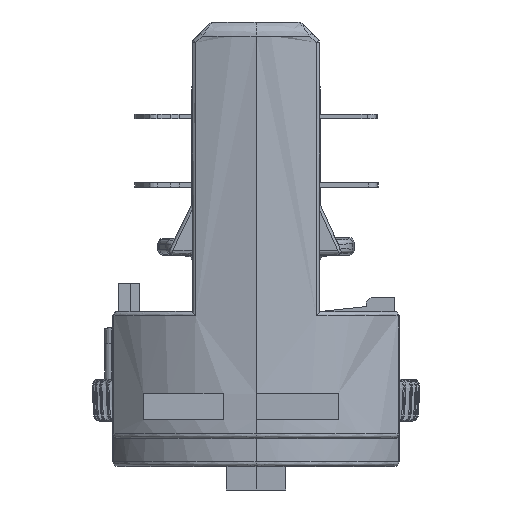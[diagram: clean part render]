
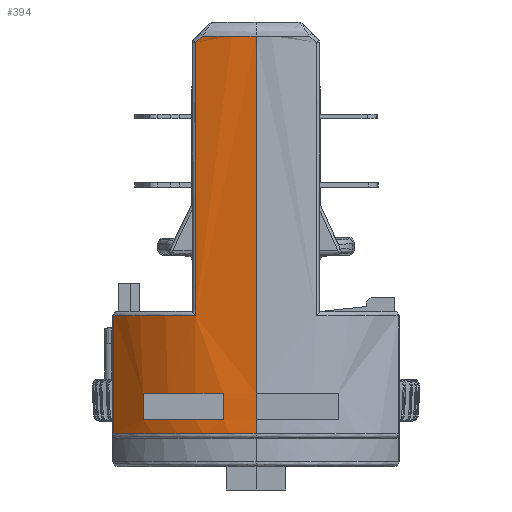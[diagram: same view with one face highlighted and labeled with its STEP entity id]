
A CAD part, left-side view. The second image highlights one B-rep face of the part: STEP entity #394.
In plain terms, the highlighted free-form (B-spline) face has degree [2, 1] with [9, 2] control points.
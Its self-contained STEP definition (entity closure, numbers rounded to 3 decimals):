
#23=FACE_BOUND('',#3270,.T.);
#394=ADVANCED_FACE('',(#1829,#23),#21890,.T.);
#1829=FACE_OUTER_BOUND('',#3269,.T.);
#3269=EDGE_LOOP('',(#6072,#6073,#6074,#6075,#6076,#6077,#6078,#6079,#6080));
#3270=EDGE_LOOP('',(#6081,#6082,#6083,#6084));
#6072=ORIENTED_EDGE('',*,*,#12556,.T.);
#6073=ORIENTED_EDGE('',*,*,#12514,.F.);
#6074=ORIENTED_EDGE('',*,*,#12510,.F.);
#6075=ORIENTED_EDGE('',*,*,#12068,.F.);
#6076=ORIENTED_EDGE('',*,*,#12557,.T.);
#6077=ORIENTED_EDGE('',*,*,#12064,.F.);
#6078=ORIENTED_EDGE('',*,*,#12558,.T.);
#6079=ORIENTED_EDGE('',*,*,#12443,.F.);
#6080=ORIENTED_EDGE('',*,*,#12552,.F.);
#6081=ORIENTED_EDGE('',*,*,#12562,.T.);
#6082=ORIENTED_EDGE('',*,*,#12559,.T.);
#6083=ORIENTED_EDGE('',*,*,#12560,.T.);
#6084=ORIENTED_EDGE('',*,*,#12561,.T.);
#12064=EDGE_CURVE('',#19251,#19252,#15460,.T.);
#12068=EDGE_CURVE('',#19255,#19256,#15464,.T.);
#12443=EDGE_CURVE('',#19482,#19483,#16563,.T.);
#12510=EDGE_CURVE('',#19256,#19523,#15609,.T.);
#12514=EDGE_CURVE('',#19523,#19524,#15613,.T.);
#12552=EDGE_CURVE('',#19552,#19482,#15644,.T.);
#12556=EDGE_CURVE('',#19552,#19524,#15646,.T.);
#12557=EDGE_CURVE('',#19255,#19252,#15647,.T.);
#12558=EDGE_CURVE('',#19251,#19483,#15648,.T.);
#12559=EDGE_CURVE('',#19554,#19555,#15649,.T.);
#12560=EDGE_CURVE('',#19555,#19556,#15650,.T.);
#12561=EDGE_CURVE('',#19556,#19557,#15651,.T.);
#12562=EDGE_CURVE('',#19557,#19554,#15652,.T.);
#15460=(
BOUNDED_CURVE()
B_SPLINE_CURVE(1,(#32832,#32833),.UNSPECIFIED.,.F.,.F.)
B_SPLINE_CURVE_WITH_KNOTS((2,2),(0.,38.2),.UNSPECIFIED.)
CURVE()
GEOMETRIC_REPRESENTATION_ITEM()
RATIONAL_B_SPLINE_CURVE((1.,1.))
REPRESENTATION_ITEM('')
);
#15464=(
BOUNDED_CURVE()
B_SPLINE_CURVE(1,(#32842,#32843),.UNSPECIFIED.,.F.,.F.)
B_SPLINE_CURVE_WITH_KNOTS((2,2),(0.,1.5),.UNSPECIFIED.)
CURVE()
GEOMETRIC_REPRESENTATION_ITEM()
RATIONAL_B_SPLINE_CURVE((1.,1.))
REPRESENTATION_ITEM('')
);
#15609=(
BOUNDED_CURVE()
B_SPLINE_CURVE(2,(#34026,#34027,#34028),.UNSPECIFIED.,.F.,.F.)
B_SPLINE_CURVE_WITH_KNOTS((3,3),(53.261,70.591),
 .UNSPECIFIED.)
CURVE()
GEOMETRIC_REPRESENTATION_ITEM()
RATIONAL_B_SPLINE_CURVE((1.,0.911,1.))
REPRESENTATION_ITEM('')
);
#15613=(
BOUNDED_CURVE()
B_SPLINE_CURVE(1,(#34037,#34038),.UNSPECIFIED.,.F.,.F.)
B_SPLINE_CURVE_WITH_KNOTS((2,2),(0.,12.6),.UNSPECIFIED.)
CURVE()
GEOMETRIC_REPRESENTATION_ITEM()
RATIONAL_B_SPLINE_CURVE((1.,1.))
REPRESENTATION_ITEM('')
);
#15644=(
BOUNDED_CURVE()
B_SPLINE_CURVE(1,(#34142,#34143),.UNSPECIFIED.,.F.,.F.)
B_SPLINE_CURVE_WITH_KNOTS((2,2),(0.,29.193),.UNSPECIFIED.)
CURVE()
GEOMETRIC_REPRESENTATION_ITEM()
RATIONAL_B_SPLINE_CURVE((1.,1.))
REPRESENTATION_ITEM('')
);
#15646=(
BOUNDED_CURVE()
B_SPLINE_CURVE(2,(#34155,#34156,#34157),.UNSPECIFIED.,.F.,.F.)
B_SPLINE_CURVE_WITH_KNOTS((3,3),(0.,10.837),.UNSPECIFIED.)
CURVE()
GEOMETRIC_REPRESENTATION_ITEM()
RATIONAL_B_SPLINE_CURVE((1.,0.966,1.))
REPRESENTATION_ITEM('')
);
#15647=(
BOUNDED_CURVE()
B_SPLINE_CURVE(1,(#34158,#34159),.UNSPECIFIED.,.F.,.F.)
B_SPLINE_CURVE_WITH_KNOTS((2,2),(0.,2.8),.UNSPECIFIED.)
CURVE()
GEOMETRIC_REPRESENTATION_ITEM()
RATIONAL_B_SPLINE_CURVE((1.,1.))
REPRESENTATION_ITEM('')
);
#15648=(
BOUNDED_CURVE()
B_SPLINE_CURVE(2,(#34160,#34161,#34162),.UNSPECIFIED.,.F.,.F.)
B_SPLINE_CURVE_WITH_KNOTS((3,3),(0.,5.855),.UNSPECIFIED.)
CURVE()
GEOMETRIC_REPRESENTATION_ITEM()
RATIONAL_B_SPLINE_CURVE((1.,0.99,1.))
REPRESENTATION_ITEM('')
);
#15649=(
BOUNDED_CURVE()
B_SPLINE_CURVE(2,(#34163,#34164,#34165),.UNSPECIFIED.,.F.,.F.)
B_SPLINE_CURVE_WITH_KNOTS((3,3),(0.,9.595),.UNSPECIFIED.)
CURVE()
GEOMETRIC_REPRESENTATION_ITEM()
RATIONAL_B_SPLINE_CURVE((1.,0.973,1.))
REPRESENTATION_ITEM('')
);
#15650=(
BOUNDED_CURVE()
B_SPLINE_CURVE(1,(#34166,#34167),.UNSPECIFIED.,.F.,.F.)
B_SPLINE_CURVE_WITH_KNOTS((2,2),(0.,2.8),.UNSPECIFIED.)
CURVE()
GEOMETRIC_REPRESENTATION_ITEM()
RATIONAL_B_SPLINE_CURVE((1.,1.))
REPRESENTATION_ITEM('')
);
#15651=(
BOUNDED_CURVE()
B_SPLINE_CURVE(2,(#34168,#34169,#34170),.UNSPECIFIED.,.F.,.F.)
B_SPLINE_CURVE_WITH_KNOTS((3,3),(0.,9.595),.UNSPECIFIED.)
CURVE()
GEOMETRIC_REPRESENTATION_ITEM()
RATIONAL_B_SPLINE_CURVE((1.,0.973,1.))
REPRESENTATION_ITEM('')
);
#15652=(
BOUNDED_CURVE()
B_SPLINE_CURVE(1,(#34171,#34172),.UNSPECIFIED.,.F.,.F.)
B_SPLINE_CURVE_WITH_KNOTS((2,2),(0.,2.8),.UNSPECIFIED.)
CURVE()
GEOMETRIC_REPRESENTATION_ITEM()
RATIONAL_B_SPLINE_CURVE((1.,1.))
REPRESENTATION_ITEM('')
);
#16563=B_SPLINE_CURVE_WITH_KNOTS('',3,(#33846,#33847,#33848,#33849),
 .UNSPECIFIED.,.F.,.F.,(4,4),(0.,1.038),.UNSPECIFIED.);
#19251=VERTEX_POINT('',#30976);
#19252=VERTEX_POINT('',#30977);
#19255=VERTEX_POINT('',#30980);
#19256=VERTEX_POINT('',#30981);
#19482=VERTEX_POINT('',#31207);
#19483=VERTEX_POINT('',#31208);
#19523=VERTEX_POINT('',#31248);
#19524=VERTEX_POINT('',#31249);
#19552=VERTEX_POINT('',#31277);
#19554=VERTEX_POINT('',#31279);
#19555=VERTEX_POINT('',#31280);
#19556=VERTEX_POINT('',#31281);
#19557=VERTEX_POINT('',#31282);
#21890=(
BOUNDED_SURFACE()
B_SPLINE_SURFACE(2,1,((#29915,#29916),(#29917,#29918),(#29919,#29920),(#29921,
#29922),(#29923,#29924),(#29925,#29926),(#29927,#29928),(#29929,#29930),
(#29931,#29932)),.UNSPECIFIED.,.T.,.F.,.F.)
B_SPLINE_SURFACE_WITH_KNOTS((3,2,2,2,3),(2,2),(0.,31.763,63.525,
95.288,127.05),(0.,51.535),.UNSPECIFIED.)
GEOMETRIC_REPRESENTATION_ITEM()
RATIONAL_B_SPLINE_SURFACE(((1.,1.),(0.707,0.707),
(1.,1.),(0.707,0.707),(1.,1.),(0.707,
0.707),(1.,1.),(0.707,0.707),(1.,1.)))
REPRESENTATION_ITEM('')
SURFACE()
);
#29915=CARTESIAN_POINT('',(40.441,15.294,3.018));
#29916=CARTESIAN_POINT('',(40.441,15.294,-48.518));
#29917=CARTESIAN_POINT('',(40.441,-4.926,3.018));
#29918=CARTESIAN_POINT('',(40.441,-4.926,-48.518));
#29919=CARTESIAN_POINT('',(20.221,-4.926,3.018));
#29920=CARTESIAN_POINT('',(20.221,-4.926,-48.518));
#29921=CARTESIAN_POINT('',(0.,-4.926,3.018));
#29922=CARTESIAN_POINT('',(0.,-4.926,-48.518));
#29923=CARTESIAN_POINT('',(0.,15.294,3.018));
#29924=CARTESIAN_POINT('',(0.,15.294,-48.518));
#29925=CARTESIAN_POINT('',(0.,35.515,3.018));
#29926=CARTESIAN_POINT('',(0.,35.515,-48.518));
#29927=CARTESIAN_POINT('',(20.221,35.515,3.018));
#29928=CARTESIAN_POINT('',(20.221,35.515,-48.518));
#29929=CARTESIAN_POINT('',(40.441,35.515,3.018));
#29930=CARTESIAN_POINT('',(40.441,35.515,-48.518));
#29931=CARTESIAN_POINT('',(40.441,15.294,3.018));
#29932=CARTESIAN_POINT('',(40.441,15.294,-48.518));
#30976=CARTESIAN_POINT('',(0.,15.294,-1.5));
#30977=CARTESIAN_POINT('',(0.,15.294,-39.7));
#30980=CARTESIAN_POINT('',(0.,15.294,-42.5));
#30981=CARTESIAN_POINT('',(0.,15.294,-44.));
#31207=CARTESIAN_POINT('',(1.06,21.754,-2.207));
#31208=CARTESIAN_POINT('',(0.83,21.029,-1.5));
#31248=CARTESIAN_POINT('',(6.857,30.47,-44.));
#31249=CARTESIAN_POINT('',(6.857,30.47,-31.4));
#31277=CARTESIAN_POINT('',(1.06,21.754,-31.4));
#31279=CARTESIAN_POINT('',(4.,27.368,-39.7));
#31280=CARTESIAN_POINT('',(0.305,18.794,-39.7));
#31281=CARTESIAN_POINT('',(0.305,18.794,-42.5));
#31282=CARTESIAN_POINT('',(4.,27.368,-42.5));
#32832=CARTESIAN_POINT('',(0.,15.294,-1.5));
#32833=CARTESIAN_POINT('',(0.,15.294,-39.7));
#32842=CARTESIAN_POINT('',(0.,15.294,-42.5));
#32843=CARTESIAN_POINT('',(0.,15.294,-44.));
#33846=CARTESIAN_POINT('',(1.06,21.754,-2.207));
#33847=CARTESIAN_POINT('',(0.978,21.513,-1.972));
#33848=CARTESIAN_POINT('',(0.902,21.272,-1.736));
#33849=CARTESIAN_POINT('',(0.83,21.029,-1.5));
#34026=CARTESIAN_POINT('',(0.,15.294,-44.));
#34027=CARTESIAN_POINT('',(0.,24.431,-44.));
#34028=CARTESIAN_POINT('',(6.857,30.47,-44.));
#34037=CARTESIAN_POINT('',(6.857,30.47,-44.));
#34038=CARTESIAN_POINT('',(6.857,30.47,-31.4));
#34142=CARTESIAN_POINT('',(1.06,21.754,-31.4));
#34143=CARTESIAN_POINT('',(1.06,21.754,-2.207));
#34155=CARTESIAN_POINT('',(1.06,21.754,-31.4));
#34156=CARTESIAN_POINT('',(2.791,26.889,-31.4));
#34157=CARTESIAN_POINT('',(6.857,30.47,-31.4));
#34158=CARTESIAN_POINT('',(0.,15.294,-42.5));
#34159=CARTESIAN_POINT('',(0.,15.294,-39.7));
#34160=CARTESIAN_POINT('',(0.,15.294,-1.5));
#34161=CARTESIAN_POINT('',(0.,18.222,-1.5));
#34162=CARTESIAN_POINT('',(0.83,21.029,-1.5));
#34163=CARTESIAN_POINT('',(4.,27.368,-39.7));
#34164=CARTESIAN_POINT('',(1.136,23.519,-39.7));
#34165=CARTESIAN_POINT('',(0.305,18.794,-39.7));
#34166=CARTESIAN_POINT('',(0.305,18.794,-39.7));
#34167=CARTESIAN_POINT('',(0.305,18.794,-42.5));
#34168=CARTESIAN_POINT('',(0.305,18.794,-42.5));
#34169=CARTESIAN_POINT('',(1.136,23.519,-42.5));
#34170=CARTESIAN_POINT('',(4.,27.368,-42.5));
#34171=CARTESIAN_POINT('',(4.,27.368,-42.5));
#34172=CARTESIAN_POINT('',(4.,27.368,-39.7));
